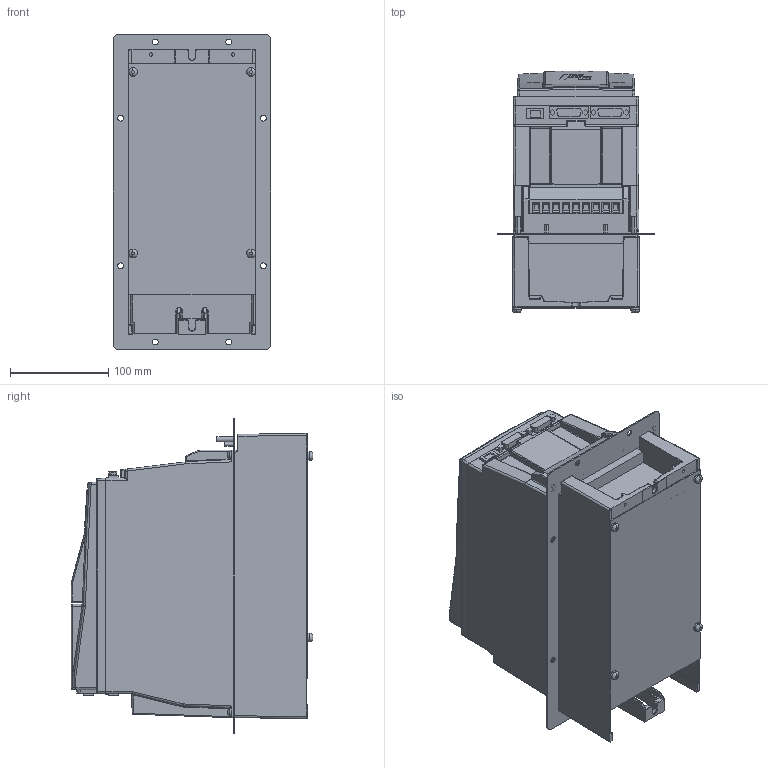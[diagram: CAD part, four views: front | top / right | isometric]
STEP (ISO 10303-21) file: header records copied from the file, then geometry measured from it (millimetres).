
FILE_DESCRIPTION (( 'STEP AP214' ), '1' );
FILE_NAME ('F6-2TR5-A030.STEP', '2020-11-26T14:54:14', ( '' ), ( '' ), 'SwSTEP 2.0', 'SolidWorks 2019', '' );
FILE_SCHEMA (( 'AUTOMOTIVE_DESIGN' ));
Length unit declared in the file: millimetre
Products named in the file (1): F6-2TR5-A030
Bounding box: 160 x 245.65 x 320 mm (x, y, z)
Volume: 7147328.2 mm3; surface area: 339135.1 mm2
Topology: 2 solids, 2 shells, 1346 faces, 3348 edges, 2011 vertices
Faces by surface type: plane 598, cylinder 390, bspline 225, torus 55, sphere 50, cone 28
Entity records: 47299 total; most frequent: CARTESIAN_POINT 17400, ORIENTED_EDGE 6568, DIRECTION 5645, EDGE_CURVE 3284, VERTEX_POINT 2011, AXIS2_PLACEMENT_3D 1905, VECTOR 1835, LINE 1835
